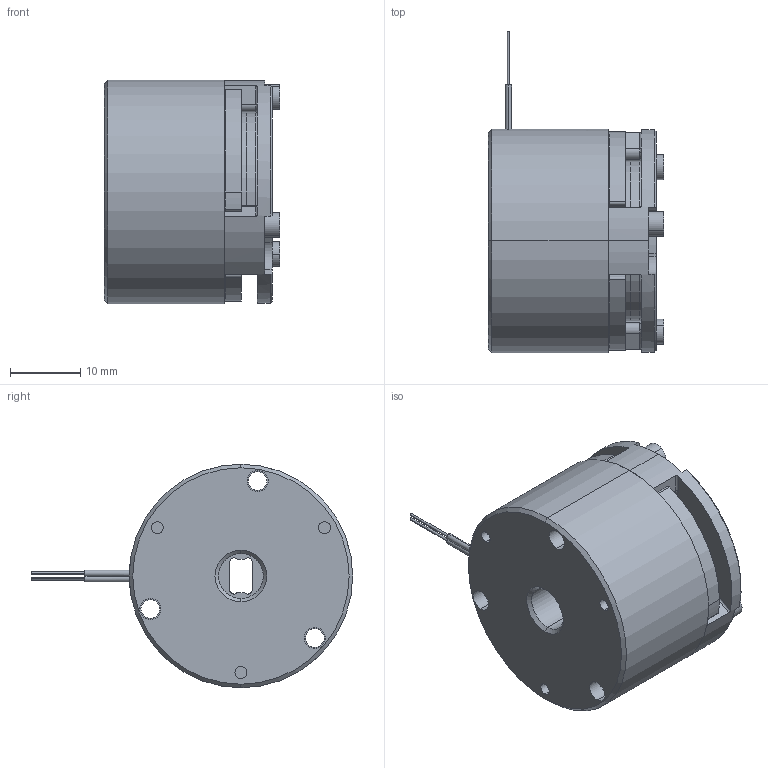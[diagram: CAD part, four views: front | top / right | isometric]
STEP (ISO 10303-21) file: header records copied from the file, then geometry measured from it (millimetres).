
FILE_DESCRIPTION (( 'STEP AP214' ), '1' );
FILE_NAME ('AD1.25HP.STEP', '2025-11-11T15:14:12', ( '' ), ( '' ), 'SwSTEP 2.0', 'SolidWorks 2024', '' );
FILE_SCHEMA (( 'AUTOMOTIVE_DESIGN' ));
Length unit declared in the file: inch
Products named in the file (1): AD1.25HP
Bounding box: 24.9 x 45.62 x 31.72 mm (x, y, z)
Volume: 16018.3 mm3; surface area: 10194.8 mm2
Topology: 6 solids, 6 shells, 321 faces, 831 edges, 547 vertices
Faces by surface type: cylinder 188, plane 96, cone 13, torus 12, bspline 12
Entity records: 36702 total; most frequent: CARTESIAN_POINT 28685, DIRECTION 1664, ORIENTED_EDGE 1662, EDGE_CURVE 831, AXIS2_PLACEMENT_3D 670, VERTEX_POINT 547, EDGE_LOOP 376, CIRCLE 360
